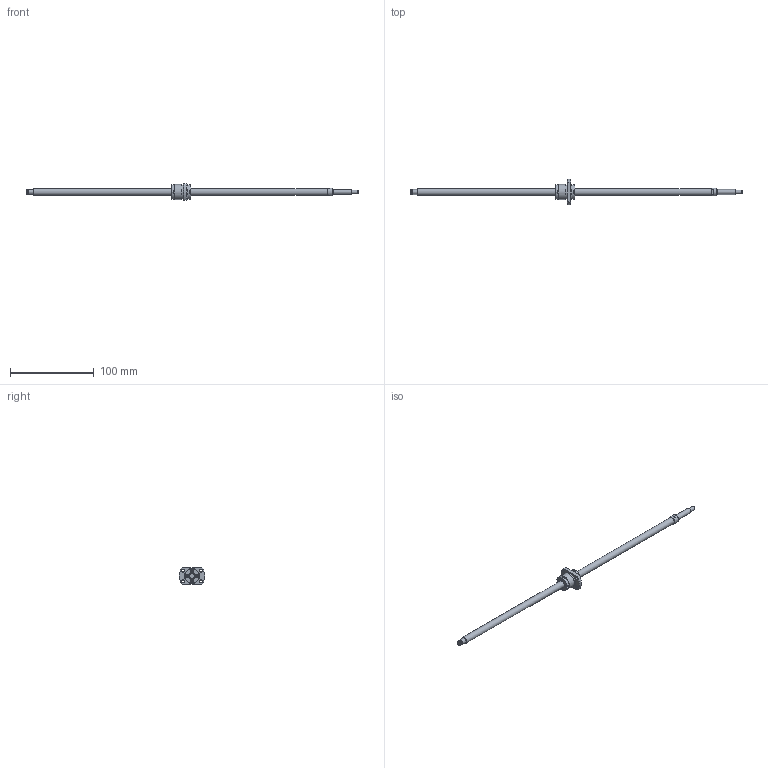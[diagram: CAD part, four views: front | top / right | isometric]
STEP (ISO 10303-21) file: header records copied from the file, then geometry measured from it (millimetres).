
FILE_DESCRIPTION(/* description */ ('STEP AP214'),/* implementation_level */ '2;1');
FILE_NAME(/* name */ 'SRT0820-347R397C7B0X(165Processing)',/* time_stamp */ '2026-08-04T20:07:46+02:00',/* author */ ('License CC BY-ND 4.0'),/* organization */ ('CADENAS'),/* preprocessor_version */ 'ST-DEVELOPER v20',/* originating_system */ 'PARTsolutions',/* authorisation */ ' ');
FILE_SCHEMA (('AUTOMOTIVE_DESIGN {1 0 10303 214 3 1 1}'));
Length unit declared in the file: millimetre
Products named in the file (3): SRT0820-347R397C7B0X(165Processing); SRT0820-347R430BCt7Processing54Shaft; SRT0820Nut
Assembly tree (2 placements, depth 2):
  SRT0820-347R397C7B0X(165Processing)
    SRT0820-347R430BCt7Processing54Shaft
    SRT0820Nut
Bounding box: 397 x 30.91 x 20 mm (x, y, z)
Volume: 24714.7 mm3; surface area: 13227.6 mm2
Topology: 2 solids, 2 shells, 155 faces, 366 edges, 241 vertices
Faces by surface type: plane 110, cylinder 35, cone 9, torus 1
Full cylindrical faces by diameter (mm): 3 x8, 3.4 x4, 4.5 x1, 5.7 x1, 6 x3, 8 x2, 9.5 x1, 17.5 x2, 17.7 x1, 18 x2
Entity records: 4367 total; most frequent: CARTESIAN_POINT 752, DIRECTION 738, ORIENTED_EDGE 664, EDGE_CURVE 332, AXIS2_PLACEMENT_3D 256, VERTEX_POINT 238, LINE 226, VECTOR 226
